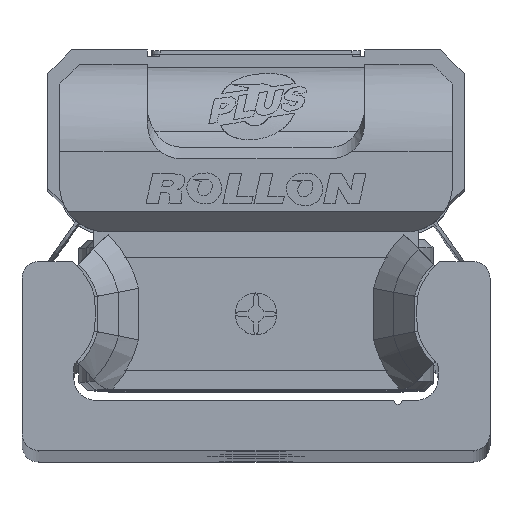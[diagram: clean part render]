
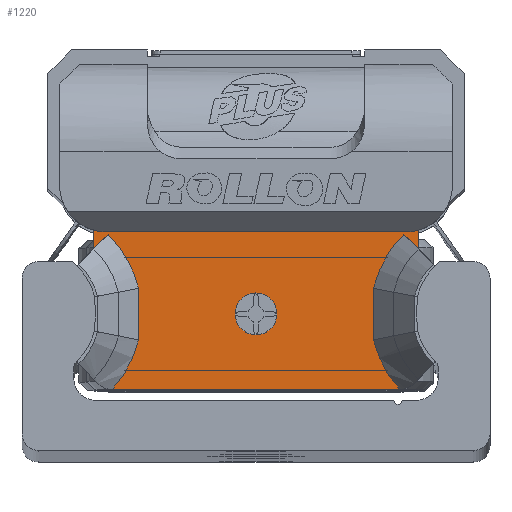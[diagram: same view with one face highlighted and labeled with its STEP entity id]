
A CAD part, top view. The second image highlights one B-rep face of the part: STEP entity #1220.
In plain terms, the highlighted planar face has unit normal (0, 0, 1) as drawn and (0, 0, -1) by its records, which use the part's own axes.
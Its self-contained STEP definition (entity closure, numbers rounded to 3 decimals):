
#1220 = ADVANCED_FACE( '', ( #2837, #2838 ), #2839, .F. );
#2837 = FACE_BOUND( '', #4961, .T. );
#2838 = FACE_OUTER_BOUND( '', #4962, .T. );
#2839 = PLANE( '', #4963 );
#4961 = EDGE_LOOP( '', ( #8333 ) );
#4962 = EDGE_LOOP( '', ( #8334, #8335, #8336, #8337, #8338, #8339, #8340, #8341, #8342, #8343, #8344, #8345, #8346, #8347 ) );
#4963 = AXIS2_PLACEMENT_3D( '', #8348, #8349, #8350 );
#8333 = ORIENTED_EDGE( '', *, *, #13017, .T. );
#8334 = ORIENTED_EDGE( '', *, *, #13018, .F. );
#8335 = ORIENTED_EDGE( '', *, *, #13019, .T. );
#8336 = ORIENTED_EDGE( '', *, *, #13020, .T. );
#8337 = ORIENTED_EDGE( '', *, *, #13021, .T. );
#8338 = ORIENTED_EDGE( '', *, *, #13022, .T. );
#8339 = ORIENTED_EDGE( '', *, *, #13023, .T. );
#8340 = ORIENTED_EDGE( '', *, *, #12275, .T. );
#8341 = ORIENTED_EDGE( '', *, *, #13024, .T. );
#8342 = ORIENTED_EDGE( '', *, *, #13025, .T. );
#8343 = ORIENTED_EDGE( '', *, *, #13026, .T. );
#8344 = ORIENTED_EDGE( '', *, *, #13027, .T. );
#8345 = ORIENTED_EDGE( '', *, *, #13028, .T. );
#8346 = ORIENTED_EDGE( '', *, *, #12035, .T. );
#8347 = ORIENTED_EDGE( '', *, *, #13029, .T. );
#8348 = CARTESIAN_POINT( '', ( 9.7, 4.89, -10.6 ) );
#8349 = DIRECTION( '', ( 0., 0., 1. ) );
#8350 = DIRECTION( '', ( 1., 0., 0. ) );
#12035 = EDGE_CURVE( '', #14246, #14247, #14248, .T. );
#12275 = EDGE_CURVE( '', #14665, #14666, #14667, .T. );
#13017 = EDGE_CURVE( '', #15867, #15867, #15868, .T. );
#13018 = EDGE_CURVE( '', #15869, #14485, #15870, .T. );
#13019 = EDGE_CURVE( '', #15869, #15871, #15872, .T. );
#13020 = EDGE_CURVE( '', #15871, #15873, #15874, .T. );
#13021 = EDGE_CURVE( '', #15873, #15875, #15876, .T. );
#13022 = EDGE_CURVE( '', #15875, #15877, #15878, .T. );
#13023 = EDGE_CURVE( '', #15877, #14665, #15879, .T. );
#13024 = EDGE_CURVE( '', #14666, #15880, #15881, .T. );
#13025 = EDGE_CURVE( '', #15880, #15882, #15883, .T. );
#13026 = EDGE_CURVE( '', #15882, #15884, #15885, .T. );
#13027 = EDGE_CURVE( '', #15884, #15886, #15887, .T. );
#13028 = EDGE_CURVE( '', #15886, #14246, #15888, .T. );
#13029 = EDGE_CURVE( '', #14247, #14485, #15889, .T. );
#14246 = VERTEX_POINT( '', #17487 );
#14247 = VERTEX_POINT( '', #17488 );
#14248 = B_SPLINE_CURVE_WITH_KNOTS( '', 2, ( #17489, #17490, #17491 ), .UNSPECIFIED., .F., .F., ( 3, 3 ), ( 0., 1. ), .UNSPECIFIED. );
#14485 = VERTEX_POINT( '', #17832 );
#14665 = VERTEX_POINT( '', #18115 );
#14666 = VERTEX_POINT( '', #18116 );
#14667 = B_SPLINE_CURVE_WITH_KNOTS( '', 2, ( #18117, #18118, #18119, #18120, #18121 ), .UNSPECIFIED., .F., .F., ( 3, 2, 3 ), ( 0., 0.5, 1. ), .UNSPECIFIED. );
#15867 = VERTEX_POINT( '', #19820 );
#15868 = CIRCLE( '', #19821, 1.25 );
#15869 = VERTEX_POINT( '', #19822 );
#15870 = LINE( '', #19823, #19824 );
#15871 = VERTEX_POINT( '', #19825 );
#15872 = CIRCLE( '', #19826, 2.8 );
#15873 = VERTEX_POINT( '', #19827 );
#15874 = LINE( '', #19828, #19829 );
#15875 = VERTEX_POINT( '', #19830 );
#15876 = CIRCLE( '', #19831, 2.8 );
#15877 = VERTEX_POINT( '', #19832 );
#15878 = LINE( '', #19833, #19834 );
#15879 = LINE( '', #19835, #19836 );
#15880 = VERTEX_POINT( '', #19837 );
#15881 = B_SPLINE_CURVE_WITH_KNOTS( '', 2, ( #19838, #19839, #19840 ), .UNSPECIFIED., .F., .F., ( 3, 3 ), ( 0., 1. ), .UNSPECIFIED. );
#15882 = VERTEX_POINT( '', #19841 );
#15883 = B_SPLINE_CURVE_WITH_KNOTS( '', 2, ( #19842, #19843, #19844 ), .UNSPECIFIED., .F., .F., ( 3, 3 ), ( 0., 1. ), .UNSPECIFIED. );
#15884 = VERTEX_POINT( '', #19845 );
#15885 = LINE( '', #19846, #19847 );
#15886 = VERTEX_POINT( '', #19848 );
#15887 = B_SPLINE_CURVE_WITH_KNOTS( '', 2, ( #19849, #19850, #19851 ), .UNSPECIFIED., .F., .F., ( 3, 3 ), ( 0.1, 1. ), .UNSPECIFIED. );
#15888 = B_SPLINE_CURVE_WITH_KNOTS( '', 2, ( #19852, #19853, #19854 ), .UNSPECIFIED., .F., .F., ( 3, 3 ), ( 0., 1. ), .UNSPECIFIED. );
#15889 = LINE( '', #19855, #19856 );
#17487 = CARTESIAN_POINT( '', ( -7.031, 1.144, -10.6 ) );
#17488 = CARTESIAN_POINT( '', ( -8.853, 4.366, -10.6 ) );
#17489 = CARTESIAN_POINT( '', ( -7.031, 1.144, -10.6 ) );
#17490 = CARTESIAN_POINT( '', ( -7.477, 3.018, -10.6 ) );
#17491 = CARTESIAN_POINT( '', ( -8.853, 4.366, -10.6 ) );
#17832 = CARTESIAN_POINT( '', ( -9.7, 3.494, -10.6 ) );
#18115 = CARTESIAN_POINT( '', ( 8.853, 4.366, -10.6 ) );
#18116 = CARTESIAN_POINT( '', ( 7.031, 1.144, -10.6 ) );
#18117 = CARTESIAN_POINT( '', ( 8.853, 4.366, -10.6 ) );
#18118 = CARTESIAN_POINT( '', ( 8.182, 3.708, -10.6 ) );
#18119 = CARTESIAN_POINT( '', ( 7.715, 2.883, -10.6 ) );
#18120 = CARTESIAN_POINT( '', ( 7.249, 2.058, -10.6 ) );
#18121 = CARTESIAN_POINT( '', ( 7.031, 1.144, -10.6 ) );
#19820 = CARTESIAN_POINT( '', ( 1.25, -0.39, -10.6 ) );
#19821 = AXIS2_PLACEMENT_3D( '', #23367, #23368, #23369 );
#19822 = CARTESIAN_POINT( '', ( -9.7, 4.612, -10.6 ) );
#19823 = CARTESIAN_POINT( '', ( -9.7, 4.89, -10.6 ) );
#19824 = VECTOR( '', #23370, 1000. );
#19825 = CARTESIAN_POINT( '', ( -8.95, 4.51, -10.6 ) );
#19826 = AXIS2_PLACEMENT_3D( '', #23371, #23372, #23373 );
#19827 = CARTESIAN_POINT( '', ( 8.95, 4.51, -10.6 ) );
#19828 = CARTESIAN_POINT( '', ( 9.7, 4.51, -10.6 ) );
#19829 = VECTOR( '', #23374, 1000. );
#19830 = CARTESIAN_POINT( '', ( 9.7, 4.612, -10.6 ) );
#19831 = AXIS2_PLACEMENT_3D( '', #23375, #23376, #23377 );
#19832 = CARTESIAN_POINT( '', ( 9.7, 3.497, -10.6 ) );
#19833 = CARTESIAN_POINT( '', ( 9.7, 4.89, -10.6 ) );
#19834 = VECTOR( '', #23378, 1000. );
#19835 = CARTESIAN_POINT( '', ( 9.7, 3.501, -10.6 ) );
#19836 = VECTOR( '', #23379, 1000. );
#19837 = CARTESIAN_POINT( '', ( 7.031, -1.944, -10.6 ) );
#19838 = CARTESIAN_POINT( '', ( 7.031, 1.144, -10.6 ) );
#19839 = CARTESIAN_POINT( '', ( 6.929, -0.4, -10.6 ) );
#19840 = CARTESIAN_POINT( '', ( 7.031, -1.944, -10.6 ) );
#19841 = CARTESIAN_POINT( '', ( 8.59, -4.893, -10.6 ) );
#19842 = CARTESIAN_POINT( '', ( 7.031, -1.944, -10.6 ) );
#19843 = CARTESIAN_POINT( '', ( 7.429, -3.615, -10.6 ) );
#19844 = CARTESIAN_POINT( '', ( 8.588, -4.89, -10.6 ) );
#19845 = CARTESIAN_POINT( '', ( -8.59, -4.893, -10.6 ) );
#19846 = CARTESIAN_POINT( '', ( 9.7, -4.89, -10.6 ) );
#19847 = VECTOR( '', #23380, 1000. );
#19848 = CARTESIAN_POINT( '', ( -7.031, -1.944, -10.6 ) );
#19849 = CARTESIAN_POINT( '', ( -8.587, -4.89, -10.6 ) );
#19850 = CARTESIAN_POINT( '', ( -7.432, -3.63, -10.6 ) );
#19851 = CARTESIAN_POINT( '', ( -7.031, -1.944, -10.6 ) );
#19852 = CARTESIAN_POINT( '', ( -7.031, -1.944, -10.6 ) );
#19853 = CARTESIAN_POINT( '', ( -6.929, -0.4, -10.6 ) );
#19854 = CARTESIAN_POINT( '', ( -7.031, 1.144, -10.6 ) );
#19855 = CARTESIAN_POINT( '', ( -8.853, 4.366, -10.6 ) );
#19856 = VECTOR( '', #23381, 1000. );
#23367 = CARTESIAN_POINT( '', ( 0., -0.39, -10.6 ) );
#23368 = DIRECTION( '', ( 0., 0., 1. ) );
#23369 = DIRECTION( '', ( 1., 0., 0. ) );
#23370 = DIRECTION( '', ( 0., -1., 0. ) );
#23371 = CARTESIAN_POINT( '', ( -8.95, 7.31, -10.6 ) );
#23372 = DIRECTION( '', ( 0., 0., 1. ) );
#23373 = DIRECTION( '', ( 1., 0., 0. ) );
#23374 = DIRECTION( '', ( 1., 0., 0. ) );
#23375 = CARTESIAN_POINT( '', ( 8.95, 7.31, -10.6 ) );
#23376 = DIRECTION( '', ( 0., 0., 1. ) );
#23377 = DIRECTION( '', ( 1., 0., 0. ) );
#23378 = DIRECTION( '', ( 0., -1., 0. ) );
#23379 = DIRECTION( '', ( -0.7, 0.714, 0. ) );
#23380 = DIRECTION( '', ( -1., 0., 0. ) );
#23381 = DIRECTION( '', ( -0.7, -0.714, 0. ) );
